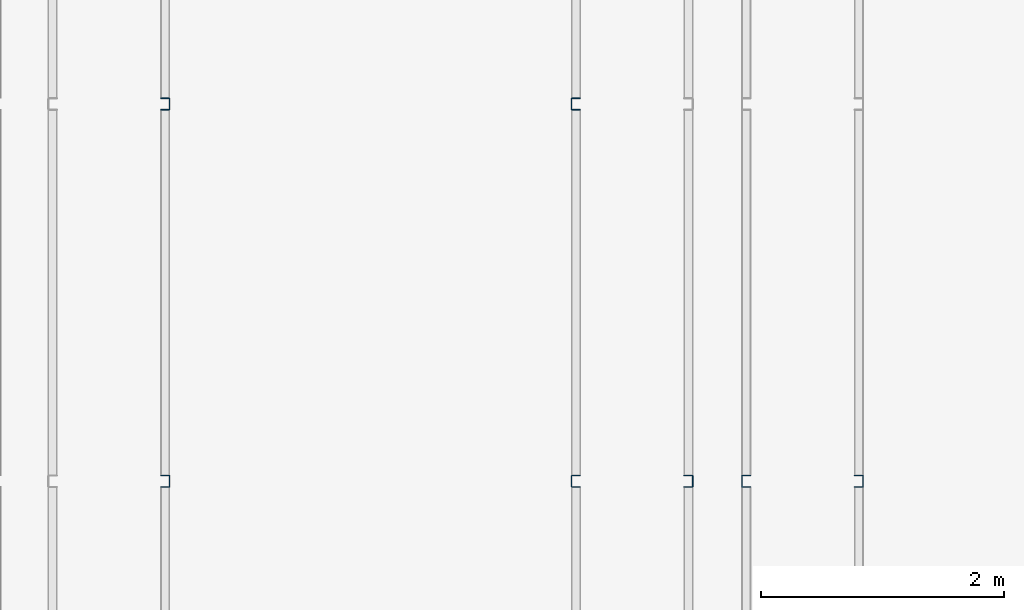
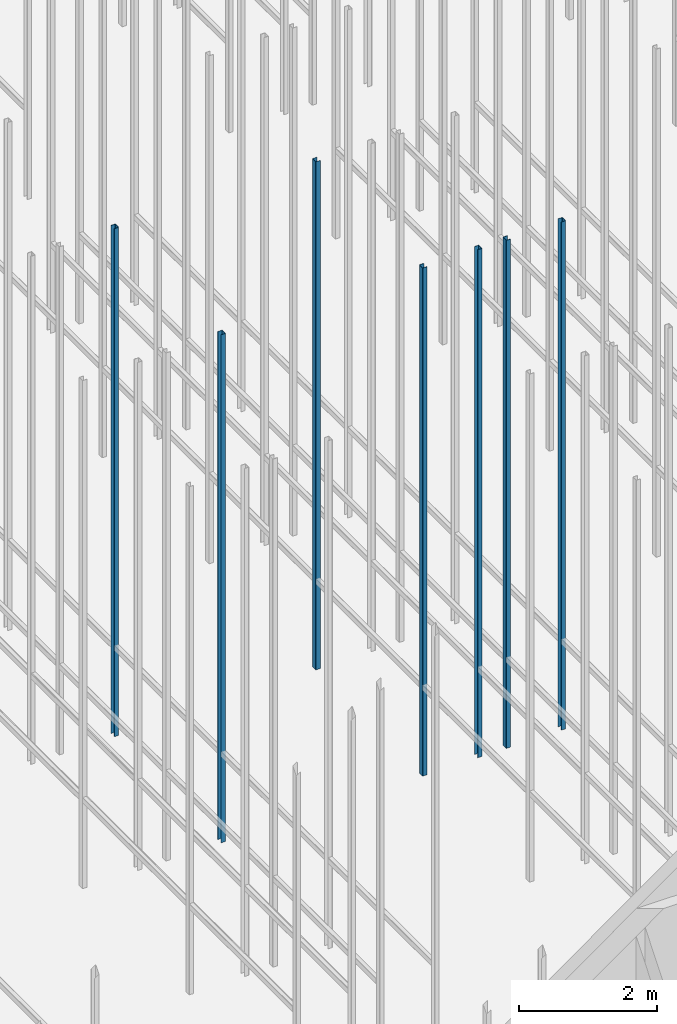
# One storey, part 19 of 302: 7 columns.
"""IFC2X3 building model written with IfcOpenShell, lengths in metres."""

import ifcopenshell
import ifcopenshell.guid

model = None  # the IFC model being written
_history = None  # IfcOwnerHistory: only IFC2X3 demands one
_inside = {}  # id of a spatial element -> (the spatial element, [elements in it])
_under = {}  # id of a project, library or spatial element -> (it, [spatial elements below it])
_declared = {}  # id of a project -> (the project, [libraries it declares])
_typed = {}  # id of a type object -> (the type object, [elements of that type])
_made_of = {}  # id of a material, layer set ... -> (it, [elements and type objects made of it])


def new_model(schema):
    """Start an empty IFC model of exactly this schema.

    Asked for "IFC4X3", IfcOpenShell would pick the latest addendum, in which some entities
    have other attributes; the version numbers below select the first issue.
    IFC2X3 requires an IfcOwnerHistory on every rooted entity: one is made here for all.
    """
    global model, _history
    if schema == "IFC4X3":
        model = ifcopenshell.file(schema_version=(4, 3, 0, 0))
    else:
        model = ifcopenshell.file(schema=schema)
    _inside.clear()
    _under.clear()
    _declared.clear()
    _typed.clear()
    _made_of.clear()
    _history = None
    if model.schema == "IFC2X3":
        org = make("IfcOrganization", Name="unknown")
        user = make(
            "IfcPersonAndOrganization",
            ThePerson=make("IfcPerson", FamilyName="unknown"),
            TheOrganization=org,
        )
        app = make(
            "IfcApplication",
            ApplicationDeveloper=org,
            Version="unknown",
            ApplicationFullName="unknown",
            ApplicationIdentifier="unknown",
        )
        _history = make(
            "IfcOwnerHistory",
            OwningUser=user,
            OwningApplication=app,
            ChangeAction="ADDED",
            CreationDate=0,
        )
    return model


def make(cls, **values):
    """One entity of the class cls with the attributes given. An attribute that is None is left unset."""
    return model.create_entity(
        cls, **{name: value for name, value in values.items() if value is not None}
    )


def entity(cls, *values):
    """Any entity or typed value of the class cls, its attributes in the order of the schema. None: left unset."""
    e = model.create_entity(cls)
    for i, value in enumerate(values):
        if value is not None:
            e[i] = value
    return e


def rooted(cls, **values):
    """An entity with a GlobalId (a new one), such as an element, a storey or a relation."""
    return make(cls, GlobalId=ifcopenshell.guid.new(), OwnerHistory=_history, **values)


def si_unit(unit_type, name, prefix=None):
    """IfcSIUnit, for example si_unit("LENGTHUNIT", "METRE", prefix="MILLI")."""
    return make("IfcSIUnit", UnitType=unit_type, Prefix=prefix, Name=name)


def converted_unit(unit_type, name, factor, base, dimensions=None, offset=None):
    """IfcConversionBasedUnit, such as the inch: factor (a typed value) times the base unit."""
    return make(
        "IfcConversionBasedUnit"
        if offset is None
        else "IfcConversionBasedUnitWithOffset",
        ConversionOffset=offset,
        Dimensions=None
        if dimensions is None
        else entity("IfcDimensionalExponents", *dimensions),
        UnitType=unit_type,
        Name=name,
        ConversionFactor=make(
            "IfcMeasureWithUnit", ValueComponent=factor, UnitComponent=base
        ),
    )


def derived_unit(unit_type, elements):
    """IfcDerivedUnit: a product of units, each with its exponent."""
    return make(
        "IfcDerivedUnit",
        Elements=[
            make("IfcDerivedUnitElement", Unit=unit, Exponent=power)
            for unit, power in elements
        ],
        UnitType=unit_type,
    )


def assignment(units):
    """IfcUnitAssignment: the units of a project."""
    return None if units is None else make("IfcUnitAssignment", Units=units)


def point(xyz):
    """IfcCartesianPoint."""
    return None if xyz is None else make("IfcCartesianPoint", Coordinates=xyz)


def direction(xyz):
    """IfcDirection."""
    return None if xyz is None else make("IfcDirection", DirectionRatios=xyz)


def frame(location, z_axis=None, x_axis=None):
    """IfcAxis2Placement3D, a coordinate frame: its origin and axes. An axis left out is left unset."""
    return make(
        "IfcAxis2Placement3D",
        Location=point(location),
        Axis=direction(z_axis),
        RefDirection=direction(x_axis),
    )


def frame_2d(location, x_axis=None):
    """IfcAxis2Placement2D, a coordinate frame in the plane: its origin and x axis."""
    return make(
        "IfcAxis2Placement2D", Location=point(location), RefDirection=direction(x_axis)
    )


def origin():
    """The frame at (0, 0, 0) with its axes left unset."""
    return frame((0.0, 0.0, 0.0))


def place(relative_to, where):
    """IfcLocalPlacement: puts the frame where relative to a parent placement (None: the world)."""
    return make(
        "IfcLocalPlacement", PlacementRelTo=relative_to, RelativePlacement=where
    )


def context(
    kind, dimensions, precision=None, world=None, true_north=None, identifier=None
):
    """IfcGeometricRepresentationContext, for example the 3D "Model" context."""
    return make(
        "IfcGeometricRepresentationContext",
        ContextIdentifier=identifier,
        ContextType=kind,
        CoordinateSpaceDimension=dimensions,
        Precision=precision,
        WorldCoordinateSystem=world,
        TrueNorth=true_north,
    )


def subcontext(parent, identifier, kind, view, scale=None):
    """IfcGeometricRepresentationSubContext, for example "Body" below "Model"."""
    return make(
        "IfcGeometricRepresentationSubContext",
        ContextIdentifier=identifier,
        ContextType=kind,
        ParentContext=parent,
        TargetScale=scale,
        TargetView=view,
    )


def project(units=None, contexts=None):
    """IfcProject with its units and contexts."""
    return rooted(
        "IfcProject",
        Name="project",
        RepresentationContexts=contexts,
        UnitsInContext=assignment(units),
    )


def spatial(cls, under=None, at=None, **own):
    """A site, building, storey or space (cls), placed at a placement, below another one or the project."""
    s = rooted(cls, ObjectPlacement=at, **own)
    if under is not None:
        _under.setdefault(under.id(), (under, []))[1].append(s)
    return s


def polyline(points):
    """IfcPolyline through the points."""
    return make("IfcPolyline", Points=[point(p) for p in points])


def circle_curve(where, radius):
    """IfcCircle in the frame where."""
    return make("IfcCircle", Position=where, Radius=radius)


def parameter(value):
    """IfcParameterValue: where a trimmed curve begins or ends, as a parameter of its basis curve."""
    return model.create_entity("IfcParameterValue", value)


def trimmed(basis, trim1, trim2, sense, master):
    """IfcTrimmedCurve: the piece of a basis curve between two trims."""
    return make(
        "IfcTrimmedCurve",
        BasisCurve=basis,
        Trim1=trim1,
        Trim2=trim2,
        SenseAgreement=sense,
        MasterRepresentation=master,
    )


def segment(curve, same_sense, transition):
    """IfcCompositeCurveSegment."""
    return make(
        "IfcCompositeCurveSegment",
        Transition=transition,
        SameSense=same_sense,
        ParentCurve=curve,
    )


def composite_curve(segments, self_intersect=None):
    """IfcCompositeCurve: segments joined end to end."""
    return make("IfcCompositeCurve", Segments=segments, SelfIntersect=self_intersect)


def outline(outer, holes=None, kind="AREA"):
    """IfcArbitraryClosedProfileDef: a profile drawn as a closed curve; with holes, ...WithVoids."""
    if holes is None:
        return make("IfcArbitraryClosedProfileDef", ProfileType=kind, OuterCurve=outer)
    return make(
        "IfcArbitraryProfileDefWithVoids",
        ProfileType=kind,
        OuterCurve=outer,
        InnerCurves=holes,
    )


def extrude(swept, where, along, depth):
    """IfcExtrudedAreaSolid: the profile swept, set in the frame where, extruded along a direction by depth."""
    return make(
        "IfcExtrudedAreaSolid",
        SweptArea=swept,
        Position=where,
        ExtrudedDirection=direction(along),
        Depth=depth,
    )


def shape(context_of_items, identifier, shape_type, items):
    """IfcShapeRepresentation: the items that make up one representation, for example the "Body"."""
    return make(
        "IfcShapeRepresentation",
        ContextOfItems=context_of_items,
        RepresentationIdentifier=identifier,
        RepresentationType=shape_type,
        Items=items,
    )


def source(mapping_origin, context_of_items, identifier, shape_type, items):
    """IfcRepresentationMap: a shape defined once, which mapped items show again and again."""
    return make(
        "IfcRepresentationMap",
        MappingOrigin=mapping_origin,
        MappedRepresentation=shape(context_of_items, identifier, shape_type, items),
    )


def transform(
    local_origin,
    x_axis=None,
    y_axis=None,
    z_axis=None,
    scale=None,
    scale2=None,
    scale3=None,
    uniform=True,
):
    """IfcCartesianTransformationOperator3D, or its non-uniform kind. x_axis, y_axis, z_axis: its Axis1, 2, 3."""
    if uniform:
        return make(
            "IfcCartesianTransformationOperator3D",
            Axis1=direction(x_axis),
            Axis2=direction(y_axis),
            LocalOrigin=point(local_origin),
            Scale=scale,
            Axis3=direction(z_axis),
        )
    return make(
        "IfcCartesianTransformationOperator3DnonUniform",
        Axis1=direction(x_axis),
        Axis2=direction(y_axis),
        LocalOrigin=point(local_origin),
        Scale=scale,
        Axis3=direction(z_axis),
        Scale2=scale2,
        Scale3=scale3,
    )


def mapped(mapping_source, mapping_target):
    """IfcMappedItem: shows the shape of a source again, moved by a transform."""
    return make(
        "IfcMappedItem", MappingSource=mapping_source, MappingTarget=mapping_target
    )


def material(Name=None, Category=None):
    """IfcMaterial."""
    return make("IfcMaterial", Name=Name, Category=Category)


def made_of(thing, what):
    """Note that an element or type object is made of a material, layer set ...; save() writes the relation."""
    if what is not None:
        _made_of.setdefault(what.id(), (what, []))[1].append(thing)
    return thing


def type_object(cls, material=None, **own):
    """A type object (cls), such as IfcWallType, which elements share."""
    return made_of(rooted(cls, **own), material)


def type_shapes(of_type, sources):
    """Give a type object the sources (RepresentationMaps) that its elements show as mapped items."""
    of_type.RepresentationMaps = sources


def element(
    cls,
    number,
    at=None,
    inside=None,
    cuts=None,
    type_object=None,
    material=None,
    context=None,
    identifier="Body",
    shape_type=None,
    held_by="IfcProductDefinitionShape",
    body=None,
    shapes=None,
    **own,
):
    """One element of the class cls, such as IfcWall. Its Tag is "e" and its number.

    at: its placement. inside: the storey or other place that contains it. cuts: it is an
    opening in that element (IfcRelVoidsElement). A single representation is given by context,
    identifier, shape_type and body (its items); several are given by shapes. held_by: the class
    of the entity that holds the representations. save() writes the other relations.
    """
    e = rooted(cls, Tag="e%d" % number, ObjectPlacement=at, **own)
    if body is not None:
        shapes = [shape(context, identifier, shape_type, body)]
    if shapes is not None:
        e.Representation = make(held_by, Representations=shapes)
    if inside is not None:
        _inside.setdefault(inside.id(), (inside, []))[1].append(e)
    if cuts is not None:
        rooted(
            "IfcRelVoidsElement", RelatingBuildingElement=cuts, RelatedOpeningElement=e
        )
    if type_object is not None:
        _typed.setdefault(type_object.id(), (type_object, []))[1].append(e)
    return made_of(e, material)


def aggregate(whole, parts):
    """IfcRelAggregates: a whole, such as a stair, and the parts it consists of."""
    return rooted("IfcRelAggregates", RelatingObject=whole, RelatedObjects=parts)


def save(model, path):
    """Write the relations noted so far, then the file.

    IfcRelAggregates (storeys below a building ...), IfcRelContainedInSpatialStructure (elements
    in a storey), IfcRelDefinesByType, IfcRelAssociatesMaterial and IfcRelDeclares: one each for
    every whole, place, type object, material and project.
    """
    for whole, parts in _under.values():
        aggregate(whole, parts)
    for where, things in _inside.values():
        rooted(
            "IfcRelContainedInSpatialStructure",
            RelatedElements=things,
            RelatingStructure=where,
        )
    for kind, things in _typed.values():
        rooted("IfcRelDefinesByType", RelatedObjects=things, RelatingType=kind)
    for what, things in _made_of.values():
        rooted("IfcRelAssociatesMaterial", RelatedObjects=things, RelatingMaterial=what)
    for by, libraries in _declared.values():
        rooted("IfcRelDeclares", RelatingContext=by, RelatedDefinitions=libraries)
    model.write(path)


model = new_model("IFC2X3")

# Units and contexts
model_context = context("Model", 3, precision=1e-05, world=origin(), true_north=direction((6.12303176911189e-17, 1.0)))
body_context = subcontext(model_context, "Body", "Model", "MODEL_VIEW")
ifc_project = project(units=[si_unit("LENGTHUNIT", "METRE"), si_unit("AREAUNIT", "SQUARE_METRE"), si_unit("VOLUMEUNIT", "CUBIC_METRE"), converted_unit("PLANEANGLEUNIT", "DEGREE", entity("IfcRatioMeasure", 0.0174532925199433), si_unit("PLANEANGLEUNIT", "RADIAN"), dimensions=[0, 0, 0, 0, 0, 0, 0]), si_unit("MASSUNIT", "GRAM", prefix="KILO"), derived_unit("MASSDENSITYUNIT", [(si_unit("MASSUNIT", "GRAM", prefix="KILO"), 1), (si_unit("LENGTHUNIT", "METRE"), -3)]), derived_unit("MOMENTOFINERTIAUNIT", [(si_unit("LENGTHUNIT", "METRE"), 4)]), si_unit("TIMEUNIT", "SECOND"), si_unit("FREQUENCYUNIT", "HERTZ"), si_unit("THERMODYNAMICTEMPERATUREUNIT", "DEGREE_CELSIUS"), derived_unit("THERMALTRANSMITTANCEUNIT", [(si_unit("MASSUNIT", "GRAM", prefix="KILO"), 1), (si_unit("THERMODYNAMICTEMPERATUREUNIT", "KELVIN"), -1), (si_unit("TIMEUNIT", "SECOND"), -3)]), derived_unit("VOLUMETRICFLOWRATEUNIT", [(si_unit("LENGTHUNIT", "METRE"), 3), (si_unit("TIMEUNIT", "SECOND"), -1)]), si_unit("ELECTRICCURRENTUNIT", "AMPERE"), si_unit("ELECTRICVOLTAGEUNIT", "VOLT"), si_unit("POWERUNIT", "WATT"), si_unit("FORCEUNIT", "NEWTON", prefix="KILO"), si_unit("ILLUMINANCEUNIT", "LUX"), si_unit("LUMINOUSFLUXUNIT", "LUMEN"), si_unit("LUMINOUSINTENSITYUNIT", "CANDELA"), derived_unit("USERDEFINED", [(si_unit("MASSUNIT", "GRAM", prefix="KILO"), -1), (si_unit("LENGTHUNIT", "METRE"), -2), (si_unit("TIMEUNIT", "SECOND"), 3), (si_unit("LUMINOUSFLUXUNIT", "LUMEN"), 1)]), derived_unit("LINEARVELOCITYUNIT", [(si_unit("LENGTHUNIT", "METRE"), 1), (si_unit("TIMEUNIT", "SECOND"), -1)]), si_unit("PRESSUREUNIT", "PASCAL"), derived_unit("USERDEFINED", [(si_unit("LENGTHUNIT", "METRE"), -2), (si_unit("MASSUNIT", "GRAM", prefix="KILO"), 1), (si_unit("TIMEUNIT", "SECOND"), -2)]), derived_unit("LINEARFORCEUNIT", [(si_unit("MASSUNIT", "GRAM", prefix="KILO"), 1), (si_unit("LENGTHUNIT", "METRE"), 1), (si_unit("TIMEUNIT", "SECOND"), -2), (si_unit("LENGTHUNIT", "METRE"), -1)]), derived_unit("PLANARFORCEUNIT", [(si_unit("MASSUNIT", "GRAM", prefix="KILO"), 1), (si_unit("LENGTHUNIT", "METRE"), 1), (si_unit("TIMEUNIT", "SECOND"), -2), (si_unit("LENGTHUNIT", "METRE"), -2)])], contexts=[model_context])

# Site, building, storey
site_placement = place(None, origin())
site = spatial("IfcSite", under=ifc_project, at=site_placement, Name="Default", CompositionType="ELEMENT")
building_placement = place(site_placement, origin())
building = spatial("IfcBuilding", under=site, at=building_placement, CompositionType="ELEMENT")
storey_placement = place(building_placement, frame((0.0, 0.0, -1.3)))
storey = spatial("IfcBuildingStorey", under=building, at=storey_placement, Name="00_EG", CompositionType="ELEMENT", Elevation=-1.3)

# Columns
ifc_material = material(Name="Metall - Baustahl S235")
column_type_1 = type_object("IfcColumnType", Name="Leichter Stahl Schlossschrauben Stütze:C 100", PredefinedType="COLUMN", material=ifc_material)
shared_shape_1 = source(origin(), body_context, "Body", "SweptSolid", [
    extrude(outline(composite_curve([segment(polyline([(-0.0469749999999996, -0.0499999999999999), (0.0214500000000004, -0.0499999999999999)]), True, "CONTINUOUS"), segment(trimmed(circle_curve(frame_2d((0.0214500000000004, -0.0434249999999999), x_axis=(0.0, -1.0)), 0.00657500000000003), [parameter(0.0)], [parameter(89.9999999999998)], True, "PARAMETER"), True, "CONTINUOUS"), segment(polyline([(0.0280250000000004, -0.0434249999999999), (0.0280250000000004, 0.0434250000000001)]), True, "CONTINUOUS"), segment(trimmed(circle_curve(frame_2d((0.0214500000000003, 0.0434250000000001), x_axis=(1.0, 0.0)), 0.0065750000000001), [parameter(0.0)], [parameter(89.9999999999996)], True, "PARAMETER"), True, "CONTINUOUS"), segment(polyline([(0.0214500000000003, 0.0500000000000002), (-0.0469750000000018, 0.0500000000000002)]), True, "CONTINUOUS"), segment(polyline([(-0.0469750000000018, 0.0500000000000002), (-0.0469750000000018, 0.0450000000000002)]), True, "CONTINUOUS"), segment(polyline([(-0.0469750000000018, 0.0450000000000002), (0.0214500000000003, 0.0450000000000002)]), True, "CONTINUOUS"), segment(trimmed(circle_curve(frame_2d((0.0214500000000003, 0.0434249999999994), x_axis=(0.0, 1.0)), 0.00157500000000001), [parameter(269.999999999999)], [parameter(0.0)], True, "PARAMETER"), False, "CONTINUOUS"), segment(polyline([(0.0230250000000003, 0.0434249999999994), (0.0230250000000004, -0.0434249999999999)]), True, "CONTINUOUS"), segment(trimmed(circle_curve(frame_2d((0.0214500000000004, -0.0434249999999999), x_axis=(1.0, 0.0)), 0.00157500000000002), [parameter(270.0)], [parameter(0.0)], True, "PARAMETER"), False, "CONTINUOUS"), segment(polyline([(0.0214500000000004, -0.0449999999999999), (-0.0469749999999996, -0.0449999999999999)]), True, "CONTINUOUS"), segment(polyline([(-0.0469749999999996, -0.0449999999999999), (-0.0469749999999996, -0.0499999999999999)]), True, "CONTINUOUS")], self_intersect=False)), frame((0.0499999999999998, 0.0280250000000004, -0.0300000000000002), z_axis=(0.0, 0.0, 1.0), x_axis=(0.0, -1.0, 0.0)), (0.0, 0.0, 1.0), 9.0),
])
type_shapes(column_type_1, [shared_shape_1])
for number, where, z_axis, x_axis in (
    (1, (-196.490111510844, 33.348088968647, 1.3), (0.0, 0.0, 1.0), (0.0, -1.0, 0.0)),
    (2, (-196.490111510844, 36.448088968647, 1.3), (0.0, 0.0, 1.0), (0.0, -1.0, 0.0)),
    (3, (-195.090111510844, 33.348088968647, 1.3), (0.0, 0.0, 1.0), (0.0, -1.0, 0.0)),
):
    element("IfcColumn", number, at=place(storey_placement, frame(where, z_axis=z_axis, x_axis=x_axis)), inside=storey, type_object=column_type_1, material=ifc_material, Name="Leichter Stahl Schlossschrauben Stütze:C 100", ObjectType="Leichter Stahl Schlossschrauben Stütze:C 100", context=body_context, shape_type="MappedRepresentation", body=[
        mapped(shared_shape_1, transform((0.0, 0.0, 0.0), scale=1.0)),
    ])
column_type_2 = type_object("IfcColumnType", Name="Leichter Stahl Schlossschrauben Stütze:C 100", PredefinedType="COLUMN", material=ifc_material)
shared_shape_2 = source(origin(), body_context, "Body", "SweptSolid", [
    extrude(outline(composite_curve([segment(polyline([(-0.0214500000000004, -0.0499999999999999), (0.0469749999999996, -0.0499999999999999)]), True, "CONTINUOUS"), segment(polyline([(0.0469749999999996, -0.0499999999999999), (0.0469749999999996, -0.0449999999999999)]), True, "CONTINUOUS"), segment(polyline([(0.0469749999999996, -0.0449999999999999), (-0.0214500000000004, -0.045)]), True, "CONTINUOUS"), segment(trimmed(circle_curve(frame_2d((-0.0214500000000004, -0.043425), x_axis=(0.0, -1.0)), 0.00157500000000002), [parameter(270.0)], [parameter(0.0)], True, "PARAMETER"), False, "CONTINUOUS"), segment(polyline([(-0.0230250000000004, -0.0434249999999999), (-0.0230250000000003, 0.0434249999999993)]), True, "CONTINUOUS"), segment(trimmed(circle_curve(frame_2d((-0.0214500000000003, 0.0434249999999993), x_axis=(-1.0, 0.0)), 0.00157500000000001), [parameter(269.999999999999)], [parameter(0.0)], True, "PARAMETER"), False, "CONTINUOUS"), segment(polyline([(-0.0214500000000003, 0.0450000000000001), (0.0469750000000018, 0.0450000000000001)]), True, "CONTINUOUS"), segment(polyline([(0.0469750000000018, 0.0450000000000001), (0.0469750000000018, 0.0500000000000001)]), True, "CONTINUOUS"), segment(polyline([(0.0469750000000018, 0.0500000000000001), (-0.0214500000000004, 0.0500000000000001)]), True, "CONTINUOUS"), segment(trimmed(circle_curve(frame_2d((-0.0214500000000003, 0.043425), x_axis=(0.0, 1.0)), 0.0065750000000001), [parameter(0.0)], [parameter(89.9999999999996)], True, "PARAMETER"), True, "CONTINUOUS"), segment(polyline([(-0.0280250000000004, 0.043425), (-0.0280250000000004, -0.043425)]), True, "CONTINUOUS"), segment(trimmed(circle_curve(frame_2d((-0.0214500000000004, -0.0434249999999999), x_axis=(-1.0, 0.0)), 0.00657500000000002), [parameter(0.0)], [parameter(89.9999999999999)], True, "PARAMETER"), True, "CONTINUOUS")], self_intersect=False)), frame((0.0499999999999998, -0.0280250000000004, -0.0300000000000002), z_axis=(0.0, 0.0, 1.0), x_axis=(0.0, -1.0, 0.0)), (0.0, 0.0, 1.0), 9.0),
])
type_shapes(column_type_2, [shared_shape_2])
for number, where, z_axis, x_axis in (
    (4, (-195.490111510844, 33.348088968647, 1.3), (0.0, 0.0, 1.0), (0.0, -1.0, 0.0)),
    (5, (-199.790111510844, 33.348088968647, 1.3), (0.0, 0.0, 1.0), (0.0, -1.0, 0.0)),
    (6, (-199.790111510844, 36.448088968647, 1.3), (0.0, 0.0, 1.0), (0.0, -1.0, 0.0)),
    (7, (-194.090111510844, 33.348088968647, 1.3), (0.0, 0.0, 1.0), (0.0, -1.0, 0.0)),
):
    element("IfcColumn", number, at=place(storey_placement, frame(where, z_axis=z_axis, x_axis=x_axis)), inside=storey, type_object=column_type_2, material=ifc_material, Name="Leichter Stahl Schlossschrauben Stütze:C 100", ObjectType="Leichter Stahl Schlossschrauben Stütze:C 100", context=body_context, shape_type="MappedRepresentation", body=[
        mapped(shared_shape_2, transform((0.0, 0.0, 0.0), scale=1.0)),
    ])

save(model, "model.ifc")
